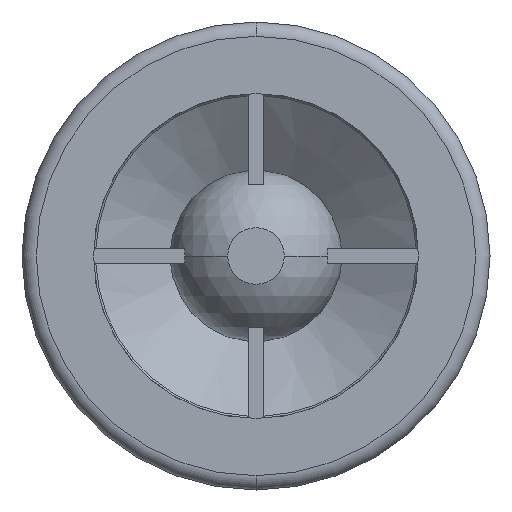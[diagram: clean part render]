
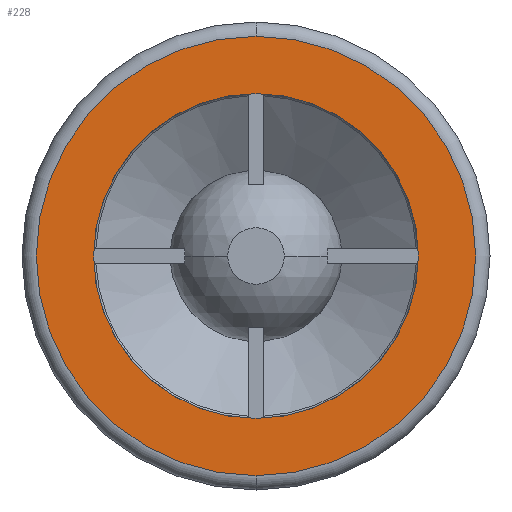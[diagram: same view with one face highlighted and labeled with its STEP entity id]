
A CAD part, front view. The second image highlights one B-rep face of the part: STEP entity #228.
In plain terms, the highlighted planar face has unit normal (0, -1, 0).
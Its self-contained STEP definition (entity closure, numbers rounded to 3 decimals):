
#18 = EDGE_CURVE ( 'NONE', #3190, #3170, #654, .T. ) ;
#215 = ORIENTED_EDGE ( 'NONE', *, *, #3209, .F. ) ;
#219 = ORIENTED_EDGE ( 'NONE', *, *, #600, .T. ) ;
#220 = EDGE_LOOP ( 'NONE', ( #221, #215 ) ) ;
#221 = ORIENTED_EDGE ( 'NONE', *, *, #18, .F. ) ;
#224 = ORIENTED_EDGE ( 'NONE', *, *, #231, .T. ) ;
#226 = EDGE_LOOP ( 'NONE', ( #224, #219 ) ) ;
#228 = ADVANCED_FACE ( 'NONE', ( #1087, #1086 ), #1085, .F. ) ;
#231 = EDGE_CURVE ( 'NONE', #602, #601, #1079, .T. ) ;
#600 = EDGE_CURVE ( 'NONE', #601, #602, #1745, .T. ) ;
#601 = VERTEX_POINT ( 'NONE', #1736 ) ;
#602 = VERTEX_POINT ( 'NONE', #1735 ) ;
#650 = DIRECTION ( 'NONE',  ( 0., 0., -1. ) ) ;
#651 = DIRECTION ( 'NONE',  ( 0., -1., 0. ) ) ;
#652 = CARTESIAN_POINT ( 'NONE',  ( 0., 0., 0. ) ) ;
#653 = AXIS2_PLACEMENT_3D ( 'NONE', #652, #651, #650 ) ;
#654 = CIRCLE ( 'NONE', #653, 17. ) ;
#1076 = DIRECTION ( 'NONE',  ( 0., 0., 1. ) ) ;
#1077 = DIRECTION ( 'NONE',  ( 0., -1., 0. ) ) ;
#1078 = AXIS2_PLACEMENT_3D ( 'NONE', #1083, #1077, #1076 ) ;
#1079 = CIRCLE ( 'NONE', #1078, 23. ) ;
#1080 = DIRECTION ( 'NONE',  ( 0., 0., 1. ) ) ;
#1081 = DIRECTION ( 'NONE',  ( 0., 1., 0. ) ) ;
#1082 = CARTESIAN_POINT ( 'NONE',  ( -17., 0., 0. ) ) ;
#1083 = CARTESIAN_POINT ( 'NONE',  ( 0., 0., 0. ) ) ;
#1084 = AXIS2_PLACEMENT_3D ( 'NONE', #1082, #1081, #1080 ) ;
#1085 = PLANE ( 'NONE',  #1084 ) ;
#1086 = FACE_BOUND ( 'NONE', #220, .T. ) ;
#1087 = FACE_OUTER_BOUND ( 'NONE', #226, .T. ) ;
#1735 = CARTESIAN_POINT ( 'NONE',  ( 0., 0., 23. ) ) ;
#1736 = CARTESIAN_POINT ( 'NONE',  ( 0., 0., -23. ) ) ;
#1737 = DIRECTION ( 'NONE',  ( 0., 0., 1. ) ) ;
#1738 = DIRECTION ( 'NONE',  ( 0., -1., 0. ) ) ;
#1739 = CARTESIAN_POINT ( 'NONE',  ( 0., 0., 0. ) ) ;
#1740 = AXIS2_PLACEMENT_3D ( 'NONE', #1739, #1738, #1737 ) ;
#1745 = CIRCLE ( 'NONE', #1740, 23. ) ;
#2408 = CARTESIAN_POINT ( 'NONE',  ( 0., 0., 17. ) ) ;
#2417 = CARTESIAN_POINT ( 'NONE',  ( 0., 0., -17. ) ) ;
#2450 = CARTESIAN_POINT ( 'NONE',  ( 0., 0., 0. ) ) ;
#2451 = CIRCLE ( 'NONE', #2491, 17. ) ;
#2489 = DIRECTION ( 'NONE',  ( 0., 0., -1. ) ) ;
#2490 = DIRECTION ( 'NONE',  ( 0., -1., 0. ) ) ;
#2491 = AXIS2_PLACEMENT_3D ( 'NONE', #2450, #2490, #2489 ) ;
#3170 = VERTEX_POINT ( 'NONE', #2408 ) ;
#3190 = VERTEX_POINT ( 'NONE', #2417 ) ;
#3209 = EDGE_CURVE ( 'NONE', #3170, #3190, #2451, .T. ) ;
